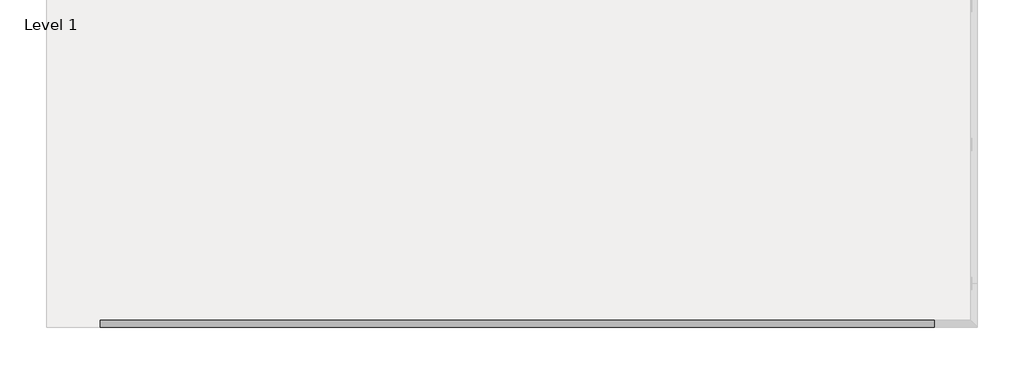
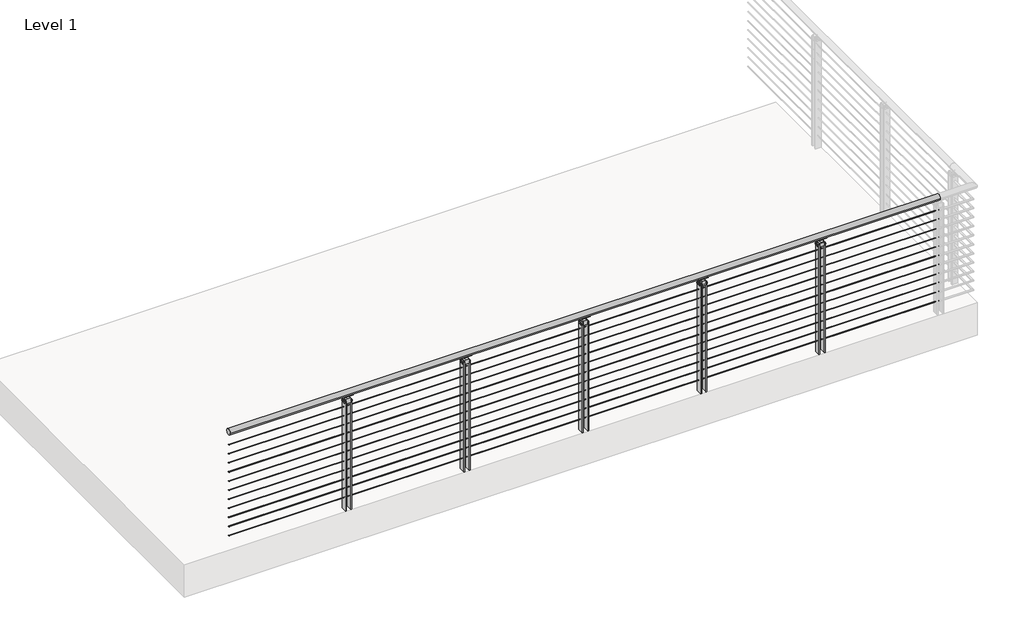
# One storey, part 17 of 36: 1 railing.
"""IFC4 building model written with IfcOpenShell, lengths in millimetres."""

from ifc_helpers import new_model, si_unit, point, frame, frame_2d, origin, origin_with_axes, place, context, project, spatial, polyline, circle_curve, trimmed, segment, composite_curve, outline, extrude, element, save
from ifc_brep_helpers import plane_surface, cylinder_surface, revolved_surface, advanced_brep

model = new_model("IFC4")

# Units and contexts
model_context = context("Model", 3, world=origin())
ifc_project = project(units=[si_unit("LENGTHUNIT", "METRE", prefix="MILLI")], contexts=[model_context])

# Site, building, storey
site = spatial("IfcSite", under=ifc_project)
building = spatial("IfcBuilding", under=site)
storey = spatial("IfcBuildingStorey", under=building, Name="Level 1", Elevation=0.0)

# Railing
placement = place(None, origin())
element("IfcRailing", 1, ObjectType="VIVA-BLADE-Cable-Weld Mount-Straight", at=placement, inside=storey, context=model_context, shape_type="SolidModel", body=[
    extrude(outline(composite_curve([segment(trimmed(circle_curve(frame_2d((-57159.0334719, 1054.1)), 25.4), [point((-57184.4334719, 1054.1))], [point((-57133.6334719, 1054.1))], False, "CARTESIAN"), True, "CONTINUOUS"), segment(trimmed(circle_curve(frame_2d((-57159.0334719, 1054.1)), 25.4), [point((-57133.6334719, 1054.1))], [point((-57184.4334719, 1054.1))], False, "CARTESIAN"), True, "CONTINUOUS")], self_intersect=False)), frame((38933.2855247, 0.0, 0.0), z_axis=(1.0, 0.0, 0.0), x_axis=(0.0, 1.0, 0.0)), (0.0, 0.0, 1.0), 6096.0),
    extrude(outline(composite_curve([segment(trimmed(circle_curve(frame_2d((-57159.0334719, 937.4124)), 2.3876), [point((-57156.6458719, 937.4124))], [point((-57161.4210719, 937.4124))], False, "CARTESIAN"), True, "CONTINUOUS"), segment(trimmed(circle_curve(frame_2d((-57159.0334719, 937.4124)), 2.3876), [point((-57161.4210719, 937.4124))], [point((-57156.6458719, 937.4124))], False, "CARTESIAN"), True, "CONTINUOUS")], self_intersect=False)), frame((38933.2855247, 0.0, 0.0), z_axis=(1.0, 0.0, 0.0), x_axis=(0.0, 1.0, 0.0)), (0.0, 0.0, 1.0), 6096.0),
    extrude(outline(composite_curve([segment(trimmed(circle_curve(frame_2d((-57159.0334719, 854.8624)), 2.3876), [point((-57156.6458719, 854.8624))], [point((-57161.4210719, 854.8624))], False, "CARTESIAN"), True, "CONTINUOUS"), segment(trimmed(circle_curve(frame_2d((-57159.0334719, 854.8624)), 2.3876), [point((-57161.4210719, 854.8624))], [point((-57156.6458719, 854.8624))], False, "CARTESIAN"), True, "CONTINUOUS")], self_intersect=False)), frame((38933.2855247, 0.0, 0.0), z_axis=(1.0, 0.0, 0.0), x_axis=(0.0, 1.0, 0.0)), (0.0, 0.0, 1.0), 6096.0),
    extrude(outline(composite_curve([segment(trimmed(circle_curve(frame_2d((-57159.0334719, 772.3124)), 2.3876), [point((-57156.6458719, 772.3124))], [point((-57161.4210719, 772.3124))], False, "CARTESIAN"), True, "CONTINUOUS"), segment(trimmed(circle_curve(frame_2d((-57159.0334719, 772.3124)), 2.3876), [point((-57161.4210719, 772.3124))], [point((-57156.6458719, 772.3124))], False, "CARTESIAN"), True, "CONTINUOUS")], self_intersect=False)), frame((38933.2855247, 0.0, 0.0), z_axis=(1.0, 0.0, 0.0), x_axis=(0.0, 1.0, 0.0)), (0.0, 0.0, 1.0), 6096.0),
    extrude(outline(composite_curve([segment(trimmed(circle_curve(frame_2d((-57159.0334719, 689.7624)), 2.3876), [point((-57156.6458719, 689.7624))], [point((-57161.4210719, 689.7624))], False, "CARTESIAN"), True, "CONTINUOUS"), segment(trimmed(circle_curve(frame_2d((-57159.0334719, 689.7624)), 2.3876), [point((-57161.4210719, 689.7624))], [point((-57156.6458719, 689.7624))], False, "CARTESIAN"), True, "CONTINUOUS")], self_intersect=False)), frame((38933.2855247, 0.0, 0.0), z_axis=(1.0, 0.0, 0.0), x_axis=(0.0, 1.0, 0.0)), (0.0, 0.0, 1.0), 6096.0),
    extrude(outline(composite_curve([segment(trimmed(circle_curve(frame_2d((-57159.0334719, 607.2124)), 2.3876), [point((-57156.6458719, 607.2124))], [point((-57161.4210719, 607.2124))], False, "CARTESIAN"), True, "CONTINUOUS"), segment(trimmed(circle_curve(frame_2d((-57159.0334719, 607.2124)), 2.3876), [point((-57161.4210719, 607.2124))], [point((-57156.6458719, 607.2124))], False, "CARTESIAN"), True, "CONTINUOUS")], self_intersect=False)), frame((38933.2855247, 0.0, 0.0), z_axis=(1.0, 0.0, 0.0), x_axis=(0.0, 1.0, 0.0)), (0.0, 0.0, 1.0), 6096.0),
    extrude(outline(composite_curve([segment(trimmed(circle_curve(frame_2d((-57159.0334719, 524.6624)), 2.3876), [point((-57156.6458719, 524.6624))], [point((-57161.4210719, 524.6624))], False, "CARTESIAN"), True, "CONTINUOUS"), segment(trimmed(circle_curve(frame_2d((-57159.0334719, 524.6624)), 2.3876), [point((-57161.4210719, 524.6624))], [point((-57156.6458719, 524.6624))], False, "CARTESIAN"), True, "CONTINUOUS")], self_intersect=False)), frame((38933.2855247, 0.0, 0.0), z_axis=(1.0, 0.0, 0.0), x_axis=(0.0, 1.0, 0.0)), (0.0, 0.0, 1.0), 6096.0),
    extrude(outline(composite_curve([segment(trimmed(circle_curve(frame_2d((-57159.0334719, 442.1124)), 2.3876), [point((-57156.6458719, 442.1124))], [point((-57161.4210719, 442.1124))], False, "CARTESIAN"), True, "CONTINUOUS"), segment(trimmed(circle_curve(frame_2d((-57159.0334719, 442.1124)), 2.3876), [point((-57161.4210719, 442.1124))], [point((-57156.6458719, 442.1124))], False, "CARTESIAN"), True, "CONTINUOUS")], self_intersect=False)), frame((38933.2855247, 0.0, 0.0), z_axis=(1.0, 0.0, 0.0), x_axis=(0.0, 1.0, 0.0)), (0.0, 0.0, 1.0), 6096.0),
    extrude(outline(composite_curve([segment(trimmed(circle_curve(frame_2d((-57159.0334719, 359.5624)), 2.3876), [point((-57156.6458719, 359.5624))], [point((-57161.4210719, 359.5624))], False, "CARTESIAN"), True, "CONTINUOUS"), segment(trimmed(circle_curve(frame_2d((-57159.0334719, 359.5624)), 2.3876), [point((-57161.4210719, 359.5624))], [point((-57156.6458719, 359.5624))], False, "CARTESIAN"), True, "CONTINUOUS")], self_intersect=False)), frame((38933.2855247, 0.0, 0.0), z_axis=(1.0, 0.0, 0.0), x_axis=(0.0, 1.0, 0.0)), (0.0, 0.0, 1.0), 6096.0),
    extrude(outline(composite_curve([segment(trimmed(circle_curve(frame_2d((-57159.0334719, 277.0124)), 2.3876), [point((-57156.6458719, 277.0124))], [point((-57161.4210719, 277.0124))], False, "CARTESIAN"), True, "CONTINUOUS"), segment(trimmed(circle_curve(frame_2d((-57159.0334719, 277.0124)), 2.3876), [point((-57161.4210719, 277.0124))], [point((-57156.6458719, 277.0124))], False, "CARTESIAN"), True, "CONTINUOUS")], self_intersect=False)), frame((38933.2855247, 0.0, 0.0), z_axis=(1.0, 0.0, 0.0), x_axis=(0.0, 1.0, 0.0)), (0.0, 0.0, 1.0), 6096.0),
    extrude(outline(composite_curve([segment(trimmed(circle_curve(frame_2d((-57159.0334719, 194.4624)), 2.3876), [point((-57156.6458719, 194.4624))], [point((-57161.4210719, 194.4624))], False, "CARTESIAN"), True, "CONTINUOUS"), segment(trimmed(circle_curve(frame_2d((-57159.0334719, 194.4624)), 2.3876), [point((-57161.4210719, 194.4624))], [point((-57156.6458719, 194.4624))], False, "CARTESIAN"), True, "CONTINUOUS")], self_intersect=False)), frame((38933.2855247, 0.0, 0.0), z_axis=(1.0, 0.0, 0.0), x_axis=(0.0, 1.0, 0.0)), (0.0, 0.0, 1.0), 6096.0),
    extrude(outline(composite_curve([segment(trimmed(circle_curve(frame_2d((-57159.0334719, 111.9124)), 2.3876), [point((-57156.6458719, 111.9124))], [point((-57161.4210719, 111.9124))], False, "CARTESIAN"), True, "CONTINUOUS"), segment(trimmed(circle_curve(frame_2d((-57159.0334719, 111.9124)), 2.3876), [point((-57161.4210719, 111.9124))], [point((-57156.6458719, 111.9124))], False, "CARTESIAN"), True, "CONTINUOUS")], self_intersect=False)), frame((38933.2855247, 0.0, 0.0), z_axis=(1.0, 0.0, 0.0), x_axis=(0.0, 1.0, 0.0)), (0.0, 0.0, 1.0), 6096.0),
    advanced_brep(
    [(44058.5229247, -57146.2733482, 1032.0967655), (44058.5229247, -57171.1454127, 1031.9535285), (44058.5229247, -57173.9543431, 1027.1267745), (44058.5229247, -57142.4374508, 1027.707533), (43968.0481247, -57146.2733482, 1032.0967655), (43968.0481247, -57142.4374508, 1027.707533), (43968.0481247, -57174.0681364, 1027.1893964), (43968.0481247, -57171.2323849, 1032.0018447)],
    [
        (0, 1, circle_curve(frame((44058.5229247, -57158.8371511, 1054.2115898), z_axis=(-1.0, 0.0, 0.0), x_axis=(0.0, 1.0, 0.0)), 25.4345159)),
        (1, 2, circle_curve(frame((44058.5229247, -57172.477038, 1029.4993599), z_axis=(1.0, 0.0, 0.0), x_axis=(0.0, 1.0, 0.0)), 2.7949225)),
        (2, 3, circle_curve(frame((44058.5229247, -57158.703688, 1054.9742164), z_axis=(1.0, 0.0, 0.0), x_axis=(0.0, 1.0, 0.0)), 31.75)),
        (3, 0, circle_curve(frame((44058.5229247, -57144.7257905, 1029.5784521), z_axis=(1.0, 0.0, 0.0), x_axis=(0.0, 1.0, 0.0)), 2.9558141)),
        (4, 5, circle_curve(frame((43968.0481247, -57144.7257905, 1029.5784521), z_axis=(-1.0, 0.0, 0.0), x_axis=(0.0, 1.0, 0.0)), 2.9558141)),
        (5, 6, circle_curve(frame((43968.0481247, -57158.703688, 1054.9742164), z_axis=(-1.0, 0.0, 0.0), x_axis=(0.0, 1.0, 0.0)), 31.75)),
        (6, 7, circle_curve(frame((43968.0481247, -57172.477038, 1029.4993599), z_axis=(-1.0, 0.0, 0.0), x_axis=(0.0, 1.0, 0.0)), 2.7949225)),
        (7, 4, circle_curve(frame((43968.0481247, -57158.8371511, 1054.2115898), z_axis=(1.0, 0.0, 0.0), x_axis=(0.0, 1.0, 0.0)), 25.4345159)),
        (0, 4),
        (7, 1),
        (6, 2),
        (5, 3),
    ],
    [
        plane_surface(frame((44058.5229247, -57133.4026353, 1054.2115898), z_axis=(1.0, 0.0, 0.0), x_axis=(0.0, 0.0, -1.0))),
        plane_surface(frame((43968.0481247, -57133.4026353, 1054.2115898), z_axis=(-1.0, 0.0, 0.0), x_axis=(0.0, 0.0, 1.0))),
        revolved_surface(polyline([(43968.0481247, -57133.4026352, 1054.2115898), (44058.5229247, -57133.4026352, 1054.2115898)]), (43968.0481247, -57158.8371511, 1054.2115898), (-1.0, 0.0, 0.0)),
        cylinder_surface(frame((43968.0481247, -57172.477038, 1029.4993599), z_axis=(1.0, 0.0, 0.0), x_axis=(0.0, 1.0, 0.0)), 2.7949225),
        cylinder_surface(frame((43968.0481247, -57158.703688, 1054.9742164), z_axis=(1.0, 0.0, 0.0), x_axis=(0.0, 1.0, 0.0)), 31.75),
        cylinder_surface(frame((43968.0481247, -57144.7257905, 1029.5784521), z_axis=(1.0, 0.0, 0.0), x_axis=(0.0, 1.0, 0.0)), 2.9558141),
    ],
    [
        (0, [[1, 2, 3, 4]]),
        (1, [[5, 6, 7, 8]]),
        (2, [[-1, 9, -8, 10]]),
        (3, [[-2, -10, -7, 11]]),
        (4, [[-3, -11, -6, 12]]),
        (5, [[-4, -12, -5, -9]]),
    ],
),
    advanced_brep(
    [(44025.9855247, -57156.4934719, 1014.4125), (44000.5855247, -57156.4934719, 1014.4125), (43986.2176098, -57156.4934719, 1028.7804149), (44040.3534396, -57156.4934719, 1028.7804149), (44025.9855247, -57161.5734719, 1014.4125), (44040.3534396, -57161.5734719, 1028.7804149), (43986.2176098, -57161.5734719, 1028.7804149), (44000.5855247, -57161.5734719, 1014.4125)],
    [
        (0, 1),
        (1, 2, circle_curve(frame((43986.2176098, -57156.4934719, 1014.4125), z_axis=(0.0, -1.0, 0.0), x_axis=(-1.0, 0.0, 0.0)), 14.3679149)),
        (2, 3),
        (3, 0, circle_curve(frame((44040.3534396, -57156.4934719, 1014.4125), z_axis=(0.0, -1.0, 0.0), x_axis=(-1.0, 0.0, 0.0)), 14.3679149)),
        (4, 5, circle_curve(frame((44040.3534396, -57161.5734719, 1014.4125), z_axis=(0.0, 1.0, 0.0), x_axis=(-1.0, 0.0, 0.0)), 14.3679149)),
        (5, 6),
        (6, 7, circle_curve(frame((43986.2176098, -57161.5734719, 1014.4125), z_axis=(0.0, 1.0, 0.0), x_axis=(-1.0, 0.0, 0.0)), 14.3679149)),
        (7, 4),
        (0, 4),
        (7, 1),
        (6, 2),
        (5, 3),
    ],
    [
        plane_surface(frame((44000.5855247, -57156.4934719, 1014.4125), z_axis=(0.0, 1.0, 0.0), x_axis=(-1.0, 0.0, 0.0))),
        plane_surface(frame((44000.5855247, -57161.5734719, 1014.4125), z_axis=(0.0, -1.0, 0.0), x_axis=(1.0, 0.0, 0.0))),
        plane_surface(frame((44025.9855247, -57156.4934719, 1014.4125), z_axis=(0.0, 0.0, -1.0), x_axis=(0.0, -1.0, 0.0))),
        revolved_surface(polyline([(43971.8496949, -57161.5734719, 1014.4125), (43971.8496949, -57156.4934719, 1014.4125)]), (43986.2176098, -57161.5734719, 1014.4125), (0.0, -1.0, 0.0)),
        plane_surface(frame((43986.2176098, -57156.4934719, 1028.7804149), z_axis=(0.0, 0.0, 1.0), x_axis=(0.0, -1.0, 0.0))),
        revolved_surface(polyline([(44025.9855247, -57161.5734719, 1014.4125), (44025.9855247, -57156.4934719, 1014.4125)]), (44040.3534396, -57161.5734719, 1014.4125), (0.0, -1.0, 0.0)),
    ],
    [
        (0, [[1, 2, 3, 4]]),
        (1, [[5, 6, 7, 8]]),
        (2, [[-1, 9, -8, 10]]),
        (3, [[-2, -10, -7, 11]]),
        (4, [[-3, -11, -6, 12]]),
        (5, [[-4, -12, -5, -9]]),
    ],
),
    extrude(outline(polyline([(43986.210689, -57133.6336752), (43994.2355247, -57133.6336752), (43994.2355247, -57184.4359998), (43986.210689, -57184.4359998), (43986.210689, -57133.6336752)])), origin_with_axes(), (0.0, 0.0, 1.0), 996.95),
    extrude(outline(composite_curve([segment(trimmed(circle_curve(frame_2d((-57171.7359488, 986.0416929)), 8.89), [point((-57180.6259488, 986.0416929))], [point((-57162.8459488, 986.0416929))], False, "CARTESIAN"), True, "CONTINUOUS"), segment(trimmed(circle_curve(frame_2d((-57171.7359488, 986.0416929)), 8.89), [point((-57162.8459488, 986.0416929))], [point((-57180.6259488, 986.0416929))], False, "CARTESIAN"), True, "CONTINUOUS")], self_intersect=False)), frame((43981.5355247, 0.0, 0.0), z_axis=(1.0, 0.0, 0.0), x_axis=(0.0, 1.0, 0.0)), (0.0, 0.0, 1.0), 63.4880631),
    extrude(outline(composite_curve([segment(trimmed(circle_curve(frame_2d((-57146.3360508, 986.0416929)), 8.89), [point((-57155.2260508, 986.0416929))], [point((-57137.4460508, 986.0416929))], False, "CARTESIAN"), True, "CONTINUOUS"), segment(trimmed(circle_curve(frame_2d((-57146.3360508, 986.0416929)), 8.89), [point((-57137.4460508, 986.0416929))], [point((-57155.2260508, 986.0416929))], False, "CARTESIAN"), True, "CONTINUOUS")], self_intersect=False)), frame((43981.5355247, 0.0, 0.0), z_axis=(1.0, 0.0, 0.0), x_axis=(0.0, 1.0, 0.0)), (0.0, 0.0, 1.0), 63.4880631),
    extrude(outline(polyline([(974.7123, 43994.2355247), (974.7123, 44032.3355247), (1008.0625, 44032.3355247), (1014.4125, 44025.9855247), (1014.4125, 44000.5855247), (1008.0625, 43994.2355247), (974.7123, 43994.2355247)])), frame((0.0, -57184.4359998, 0.0), z_axis=(0.0, 1.0, 0.0), x_axis=(0.0, 0.0, 1.0)), (0.0, 0.0, 1.0), 50.8025279),
    extrude(outline(polyline([(44032.3354867, -57133.6336752), (44040.3364867, -57133.6336752), (44040.3364867, -57184.4359998), (44032.3354867, -57184.4359998), (44032.3354867, -57133.6336752)])), origin_with_axes(), (0.0, 0.0, 1.0), 996.95),
    advanced_brep(
    [(43042.5229247, -57146.2733482, 1032.0967655), (43042.5229247, -57171.1454127, 1031.9535285), (43042.5229247, -57173.9543431, 1027.1267745), (43042.5229247, -57142.4374508, 1027.707533), (42952.0481247, -57146.2733482, 1032.0967655), (42952.0481247, -57142.4374508, 1027.707533), (42952.0481247, -57174.0681364, 1027.1893964), (42952.0481247, -57171.2323849, 1032.0018447)],
    [
        (0, 1, circle_curve(frame((43042.5229247, -57158.8371511, 1054.2115898), z_axis=(-1.0, 0.0, 0.0), x_axis=(0.0, 1.0, 0.0)), 25.4345159)),
        (1, 2, circle_curve(frame((43042.5229247, -57172.477038, 1029.4993599), z_axis=(1.0, 0.0, 0.0), x_axis=(0.0, 1.0, 0.0)), 2.7949225)),
        (2, 3, circle_curve(frame((43042.5229247, -57158.703688, 1054.9742164), z_axis=(1.0, 0.0, 0.0), x_axis=(0.0, 1.0, 0.0)), 31.75)),
        (3, 0, circle_curve(frame((43042.5229247, -57144.7257905, 1029.5784521), z_axis=(1.0, 0.0, 0.0), x_axis=(0.0, 1.0, 0.0)), 2.9558141)),
        (4, 5, circle_curve(frame((42952.0481247, -57144.7257905, 1029.5784521), z_axis=(-1.0, 0.0, 0.0), x_axis=(0.0, 1.0, 0.0)), 2.9558141)),
        (5, 6, circle_curve(frame((42952.0481247, -57158.703688, 1054.9742164), z_axis=(-1.0, 0.0, 0.0), x_axis=(0.0, 1.0, 0.0)), 31.75)),
        (6, 7, circle_curve(frame((42952.0481247, -57172.477038, 1029.4993599), z_axis=(-1.0, 0.0, 0.0), x_axis=(0.0, 1.0, 0.0)), 2.7949225)),
        (7, 4, circle_curve(frame((42952.0481247, -57158.8371511, 1054.2115898), z_axis=(1.0, 0.0, 0.0), x_axis=(0.0, 1.0, 0.0)), 25.4345159)),
        (0, 4),
        (7, 1),
        (6, 2),
        (5, 3),
    ],
    [
        plane_surface(frame((43042.5229247, -57133.4026353, 1054.2115898), z_axis=(1.0, 0.0, 0.0), x_axis=(0.0, 0.0, -1.0))),
        plane_surface(frame((42952.0481247, -57133.4026353, 1054.2115898), z_axis=(-1.0, 0.0, 0.0), x_axis=(0.0, 0.0, 1.0))),
        revolved_surface(polyline([(42952.0481247, -57133.4026352, 1054.2115898), (43042.5229247, -57133.4026352, 1054.2115898)]), (42952.0481247, -57158.8371511, 1054.2115898), (-1.0, 0.0, 0.0)),
        cylinder_surface(frame((42952.0481247, -57172.477038, 1029.4993599), z_axis=(1.0, 0.0, 0.0), x_axis=(0.0, 1.0, 0.0)), 2.7949225),
        cylinder_surface(frame((42952.0481247, -57158.703688, 1054.9742164), z_axis=(1.0, 0.0, 0.0), x_axis=(0.0, 1.0, 0.0)), 31.75),
        cylinder_surface(frame((42952.0481247, -57144.7257905, 1029.5784521), z_axis=(1.0, 0.0, 0.0), x_axis=(0.0, 1.0, 0.0)), 2.9558141),
    ],
    [
        (0, [[1, 2, 3, 4]]),
        (1, [[5, 6, 7, 8]]),
        (2, [[-1, 9, -8, 10]]),
        (3, [[-2, -10, -7, 11]]),
        (4, [[-3, -11, -6, 12]]),
        (5, [[-4, -12, -5, -9]]),
    ],
),
    advanced_brep(
    [(43009.9855247, -57156.4934719, 1014.4125), (42984.5855247, -57156.4934719, 1014.4125), (42970.2176098, -57156.4934719, 1028.7804149), (43024.3534396, -57156.4934719, 1028.7804149), (43009.9855247, -57161.5734719, 1014.4125), (43024.3534396, -57161.5734719, 1028.7804149), (42970.2176098, -57161.5734719, 1028.7804149), (42984.5855247, -57161.5734719, 1014.4125)],
    [
        (0, 1),
        (1, 2, circle_curve(frame((42970.2176098, -57156.4934719, 1014.4125), z_axis=(0.0, -1.0, 0.0), x_axis=(-1.0, 0.0, 0.0)), 14.3679149)),
        (2, 3),
        (3, 0, circle_curve(frame((43024.3534396, -57156.4934719, 1014.4125), z_axis=(0.0, -1.0, 0.0), x_axis=(-1.0, 0.0, 0.0)), 14.3679149)),
        (4, 5, circle_curve(frame((43024.3534396, -57161.5734719, 1014.4125), z_axis=(0.0, 1.0, 0.0), x_axis=(-1.0, 0.0, 0.0)), 14.3679149)),
        (5, 6),
        (6, 7, circle_curve(frame((42970.2176098, -57161.5734719, 1014.4125), z_axis=(0.0, 1.0, 0.0), x_axis=(-1.0, 0.0, 0.0)), 14.3679149)),
        (7, 4),
        (0, 4),
        (7, 1),
        (6, 2),
        (5, 3),
    ],
    [
        plane_surface(frame((42984.5855247, -57156.4934719, 1014.4125), z_axis=(0.0, 1.0, 0.0), x_axis=(-1.0, 0.0, 0.0))),
        plane_surface(frame((42984.5855247, -57161.5734719, 1014.4125), z_axis=(0.0, -1.0, 0.0), x_axis=(1.0, 0.0, 0.0))),
        plane_surface(frame((43009.9855247, -57156.4934719, 1014.4125), z_axis=(0.0, 0.0, -1.0), x_axis=(0.0, -1.0, 0.0))),
        revolved_surface(polyline([(42955.8496949, -57161.5734719, 1014.4125), (42955.8496949, -57156.4934719, 1014.4125)]), (42970.2176098, -57161.5734719, 1014.4125), (0.0, -1.0, 0.0)),
        plane_surface(frame((42970.2176098, -57156.4934719, 1028.7804149), z_axis=(0.0, 0.0, 1.0), x_axis=(0.0, -1.0, 0.0))),
        revolved_surface(polyline([(43009.9855247, -57161.5734719, 1014.4125), (43009.9855247, -57156.4934719, 1014.4125)]), (43024.3534396, -57161.5734719, 1014.4125), (0.0, -1.0, 0.0)),
    ],
    [
        (0, [[1, 2, 3, 4]]),
        (1, [[5, 6, 7, 8]]),
        (2, [[-1, 9, -8, 10]]),
        (3, [[-2, -10, -7, 11]]),
        (4, [[-3, -11, -6, 12]]),
        (5, [[-4, -12, -5, -9]]),
    ],
),
    extrude(outline(polyline([(42970.210689, -57133.6336752), (42978.2355247, -57133.6336752), (42978.2355247, -57184.4359998), (42970.210689, -57184.4359998), (42970.210689, -57133.6336752)])), origin_with_axes(), (0.0, 0.0, 1.0), 996.95),
    extrude(outline(composite_curve([segment(trimmed(circle_curve(frame_2d((-57171.7359488, 986.0416929)), 8.89), [point((-57180.6259488, 986.0416929))], [point((-57162.8459488, 986.0416929))], False, "CARTESIAN"), True, "CONTINUOUS"), segment(trimmed(circle_curve(frame_2d((-57171.7359488, 986.0416929)), 8.89), [point((-57162.8459488, 986.0416929))], [point((-57180.6259488, 986.0416929))], False, "CARTESIAN"), True, "CONTINUOUS")], self_intersect=False)), frame((42965.5355247, 0.0, 0.0), z_axis=(1.0, 0.0, 0.0), x_axis=(0.0, 1.0, 0.0)), (0.0, 0.0, 1.0), 63.4880631),
    extrude(outline(composite_curve([segment(trimmed(circle_curve(frame_2d((-57146.3360508, 986.0416929)), 8.89), [point((-57155.2260508, 986.0416929))], [point((-57137.4460508, 986.0416929))], False, "CARTESIAN"), True, "CONTINUOUS"), segment(trimmed(circle_curve(frame_2d((-57146.3360508, 986.0416929)), 8.89), [point((-57137.4460508, 986.0416929))], [point((-57155.2260508, 986.0416929))], False, "CARTESIAN"), True, "CONTINUOUS")], self_intersect=False)), frame((42965.5355247, 0.0, 0.0), z_axis=(1.0, 0.0, 0.0), x_axis=(0.0, 1.0, 0.0)), (0.0, 0.0, 1.0), 63.4880631),
    extrude(outline(polyline([(974.7123, 42978.2355247), (974.7123, 43016.3355247), (1008.0625, 43016.3355247), (1014.4125, 43009.9855247), (1014.4125, 42984.5855247), (1008.0625, 42978.2355247), (974.7123, 42978.2355247)])), frame((0.0, -57184.4359998, 0.0), z_axis=(0.0, 1.0, 0.0), x_axis=(0.0, 0.0, 1.0)), (0.0, 0.0, 1.0), 50.8025279),
    extrude(outline(polyline([(43016.3354867, -57133.6336752), (43024.3364867, -57133.6336752), (43024.3364867, -57184.4359998), (43016.3354867, -57184.4359998), (43016.3354867, -57133.6336752)])), origin_with_axes(), (0.0, 0.0, 1.0), 996.95),
    advanced_brep(
    [(42026.5229247, -57146.2733482, 1032.0967655), (42026.5229247, -57171.1454127, 1031.9535285), (42026.5229247, -57173.9543431, 1027.1267745), (42026.5229247, -57142.4374508, 1027.707533), (41936.0481247, -57146.2733482, 1032.0967655), (41936.0481247, -57142.4374508, 1027.707533), (41936.0481247, -57174.0681364, 1027.1893964), (41936.0481247, -57171.2323849, 1032.0018447)],
    [
        (0, 1, circle_curve(frame((42026.5229247, -57158.8371511, 1054.2115898), z_axis=(-1.0, 0.0, 0.0), x_axis=(0.0, 1.0, 0.0)), 25.4345159)),
        (1, 2, circle_curve(frame((42026.5229247, -57172.477038, 1029.4993599), z_axis=(1.0, 0.0, 0.0), x_axis=(0.0, 1.0, 0.0)), 2.7949225)),
        (2, 3, circle_curve(frame((42026.5229247, -57158.703688, 1054.9742164), z_axis=(1.0, 0.0, 0.0), x_axis=(0.0, 1.0, 0.0)), 31.75)),
        (3, 0, circle_curve(frame((42026.5229247, -57144.7257905, 1029.5784521), z_axis=(1.0, 0.0, 0.0), x_axis=(0.0, 1.0, 0.0)), 2.9558141)),
        (4, 5, circle_curve(frame((41936.0481247, -57144.7257905, 1029.5784521), z_axis=(-1.0, 0.0, 0.0), x_axis=(0.0, 1.0, 0.0)), 2.9558141)),
        (5, 6, circle_curve(frame((41936.0481247, -57158.703688, 1054.9742164), z_axis=(-1.0, 0.0, 0.0), x_axis=(0.0, 1.0, 0.0)), 31.75)),
        (6, 7, circle_curve(frame((41936.0481247, -57172.477038, 1029.4993599), z_axis=(-1.0, 0.0, 0.0), x_axis=(0.0, 1.0, 0.0)), 2.7949225)),
        (7, 4, circle_curve(frame((41936.0481247, -57158.8371511, 1054.2115898), z_axis=(1.0, 0.0, 0.0), x_axis=(0.0, 1.0, 0.0)), 25.4345159)),
        (0, 4),
        (7, 1),
        (6, 2),
        (5, 3),
    ],
    [
        plane_surface(frame((42026.5229247, -57133.4026353, 1054.2115898), z_axis=(1.0, 0.0, 0.0), x_axis=(0.0, 0.0, -1.0))),
        plane_surface(frame((41936.0481247, -57133.4026353, 1054.2115898), z_axis=(-1.0, 0.0, 0.0), x_axis=(0.0, 0.0, 1.0))),
        revolved_surface(polyline([(41936.0481247, -57133.4026352, 1054.2115898), (42026.5229247, -57133.4026352, 1054.2115898)]), (41936.0481247, -57158.8371511, 1054.2115898), (-1.0, 0.0, 0.0)),
        cylinder_surface(frame((41936.0481247, -57172.477038, 1029.4993599), z_axis=(1.0, 0.0, 0.0), x_axis=(0.0, 1.0, 0.0)), 2.7949225),
        cylinder_surface(frame((41936.0481247, -57158.703688, 1054.9742164), z_axis=(1.0, 0.0, 0.0), x_axis=(0.0, 1.0, 0.0)), 31.75),
        cylinder_surface(frame((41936.0481247, -57144.7257905, 1029.5784521), z_axis=(1.0, 0.0, 0.0), x_axis=(0.0, 1.0, 0.0)), 2.9558141),
    ],
    [
        (0, [[1, 2, 3, 4]]),
        (1, [[5, 6, 7, 8]]),
        (2, [[-1, 9, -8, 10]]),
        (3, [[-2, -10, -7, 11]]),
        (4, [[-3, -11, -6, 12]]),
        (5, [[-4, -12, -5, -9]]),
    ],
),
    advanced_brep(
    [(41993.9855247, -57156.4934719, 1014.4125), (41968.5855247, -57156.4934719, 1014.4125), (41954.2176098, -57156.4934719, 1028.7804149), (42008.3534396, -57156.4934719, 1028.7804149), (41993.9855247, -57161.5734719, 1014.4125), (42008.3534396, -57161.5734719, 1028.7804149), (41954.2176098, -57161.5734719, 1028.7804149), (41968.5855247, -57161.5734719, 1014.4125)],
    [
        (0, 1),
        (1, 2, circle_curve(frame((41954.2176098, -57156.4934719, 1014.4125), z_axis=(0.0, -1.0, 0.0), x_axis=(-1.0, 0.0, 0.0)), 14.3679149)),
        (2, 3),
        (3, 0, circle_curve(frame((42008.3534396, -57156.4934719, 1014.4125), z_axis=(0.0, -1.0, 0.0), x_axis=(-1.0, 0.0, 0.0)), 14.3679149)),
        (4, 5, circle_curve(frame((42008.3534396, -57161.5734719, 1014.4125), z_axis=(0.0, 1.0, 0.0), x_axis=(-1.0, 0.0, 0.0)), 14.3679149)),
        (5, 6),
        (6, 7, circle_curve(frame((41954.2176098, -57161.5734719, 1014.4125), z_axis=(0.0, 1.0, 0.0), x_axis=(-1.0, 0.0, 0.0)), 14.3679149)),
        (7, 4),
        (0, 4),
        (7, 1),
        (6, 2),
        (5, 3),
    ],
    [
        plane_surface(frame((41968.5855247, -57156.4934719, 1014.4125), z_axis=(0.0, 1.0, 0.0), x_axis=(-1.0, 0.0, 0.0))),
        plane_surface(frame((41968.5855247, -57161.5734719, 1014.4125), z_axis=(0.0, -1.0, 0.0), x_axis=(1.0, 0.0, 0.0))),
        plane_surface(frame((41993.9855247, -57156.4934719, 1014.4125), z_axis=(0.0, 0.0, -1.0), x_axis=(0.0, -1.0, 0.0))),
        revolved_surface(polyline([(41939.8496949, -57161.5734719, 1014.4125), (41939.8496949, -57156.4934719, 1014.4125)]), (41954.2176098, -57161.5734719, 1014.4125), (0.0, -1.0, 0.0)),
        plane_surface(frame((41954.2176098, -57156.4934719, 1028.7804149), z_axis=(0.0, 0.0, 1.0), x_axis=(0.0, -1.0, 0.0))),
        revolved_surface(polyline([(41993.9855247, -57161.5734719, 1014.4125), (41993.9855247, -57156.4934719, 1014.4125)]), (42008.3534396, -57161.5734719, 1014.4125), (0.0, -1.0, 0.0)),
    ],
    [
        (0, [[1, 2, 3, 4]]),
        (1, [[5, 6, 7, 8]]),
        (2, [[-1, 9, -8, 10]]),
        (3, [[-2, -10, -7, 11]]),
        (4, [[-3, -11, -6, 12]]),
        (5, [[-4, -12, -5, -9]]),
    ],
),
    extrude(outline(polyline([(41954.210689, -57133.6336752), (41962.2355247, -57133.6336752), (41962.2355247, -57184.4359998), (41954.210689, -57184.4359998), (41954.210689, -57133.6336752)])), origin_with_axes(), (0.0, 0.0, 1.0), 996.95),
    extrude(outline(composite_curve([segment(trimmed(circle_curve(frame_2d((-57171.7359488, 986.0416929)), 8.89), [point((-57180.6259488, 986.0416929))], [point((-57162.8459488, 986.0416929))], False, "CARTESIAN"), True, "CONTINUOUS"), segment(trimmed(circle_curve(frame_2d((-57171.7359488, 986.0416929)), 8.89), [point((-57162.8459488, 986.0416929))], [point((-57180.6259488, 986.0416929))], False, "CARTESIAN"), True, "CONTINUOUS")], self_intersect=False)), frame((41949.5355247, 0.0, 0.0), z_axis=(1.0, 0.0, 0.0), x_axis=(0.0, 1.0, 0.0)), (0.0, 0.0, 1.0), 63.4880631),
    extrude(outline(composite_curve([segment(trimmed(circle_curve(frame_2d((-57146.3360508, 986.0416929)), 8.89), [point((-57155.2260508, 986.0416929))], [point((-57137.4460508, 986.0416929))], False, "CARTESIAN"), True, "CONTINUOUS"), segment(trimmed(circle_curve(frame_2d((-57146.3360508, 986.0416929)), 8.89), [point((-57137.4460508, 986.0416929))], [point((-57155.2260508, 986.0416929))], False, "CARTESIAN"), True, "CONTINUOUS")], self_intersect=False)), frame((41949.5355247, 0.0, 0.0), z_axis=(1.0, 0.0, 0.0), x_axis=(0.0, 1.0, 0.0)), (0.0, 0.0, 1.0), 63.4880631),
    extrude(outline(polyline([(974.7123, 41962.2355247), (974.7123, 42000.3355247), (1008.0625, 42000.3355247), (1014.4125, 41993.9855247), (1014.4125, 41968.5855247), (1008.0625, 41962.2355247), (974.7123, 41962.2355247)])), frame((0.0, -57184.4359998, 0.0), z_axis=(0.0, 1.0, 0.0), x_axis=(0.0, 0.0, 1.0)), (0.0, 0.0, 1.0), 50.8025279),
    extrude(outline(polyline([(42000.3354867, -57133.6336752), (42008.3364867, -57133.6336752), (42008.3364867, -57184.4359998), (42000.3354867, -57184.4359998), (42000.3354867, -57133.6336752)])), origin_with_axes(), (0.0, 0.0, 1.0), 996.95),
    advanced_brep(
    [(41010.5229247, -57146.2733482, 1032.0967655), (41010.5229247, -57171.1454127, 1031.9535285), (41010.5229247, -57173.9543431, 1027.1267745), (41010.5229247, -57142.4374508, 1027.707533), (40920.0481247, -57146.2733482, 1032.0967655), (40920.0481247, -57142.4374508, 1027.707533), (40920.0481247, -57174.0681364, 1027.1893964), (40920.0481247, -57171.2323849, 1032.0018447)],
    [
        (0, 1, circle_curve(frame((41010.5229247, -57158.8371511, 1054.2115898), z_axis=(-1.0, 0.0, 0.0), x_axis=(0.0, 1.0, 0.0)), 25.4345159)),
        (1, 2, circle_curve(frame((41010.5229247, -57172.477038, 1029.4993599), z_axis=(1.0, 0.0, 0.0), x_axis=(0.0, 1.0, 0.0)), 2.7949225)),
        (2, 3, circle_curve(frame((41010.5229247, -57158.703688, 1054.9742164), z_axis=(1.0, 0.0, 0.0), x_axis=(0.0, 1.0, 0.0)), 31.75)),
        (3, 0, circle_curve(frame((41010.5229247, -57144.7257905, 1029.5784521), z_axis=(1.0, 0.0, 0.0), x_axis=(0.0, 1.0, 0.0)), 2.9558141)),
        (4, 5, circle_curve(frame((40920.0481247, -57144.7257905, 1029.5784521), z_axis=(-1.0, 0.0, 0.0), x_axis=(0.0, 1.0, 0.0)), 2.9558141)),
        (5, 6, circle_curve(frame((40920.0481247, -57158.703688, 1054.9742164), z_axis=(-1.0, 0.0, 0.0), x_axis=(0.0, 1.0, 0.0)), 31.75)),
        (6, 7, circle_curve(frame((40920.0481247, -57172.477038, 1029.4993599), z_axis=(-1.0, 0.0, 0.0), x_axis=(0.0, 1.0, 0.0)), 2.7949225)),
        (7, 4, circle_curve(frame((40920.0481247, -57158.8371511, 1054.2115898), z_axis=(1.0, 0.0, 0.0), x_axis=(0.0, 1.0, 0.0)), 25.4345159)),
        (0, 4),
        (7, 1),
        (6, 2),
        (5, 3),
    ],
    [
        plane_surface(frame((41010.5229247, -57133.4026353, 1054.2115898), z_axis=(1.0, 0.0, 0.0), x_axis=(0.0, 0.0, -1.0))),
        plane_surface(frame((40920.0481247, -57133.4026353, 1054.2115898), z_axis=(-1.0, 0.0, 0.0), x_axis=(0.0, 0.0, 1.0))),
        revolved_surface(polyline([(40920.0481247, -57133.4026352, 1054.2115898), (41010.5229247, -57133.4026352, 1054.2115898)]), (40920.0481247, -57158.8371511, 1054.2115898), (-1.0, 0.0, 0.0)),
        cylinder_surface(frame((40920.0481247, -57172.477038, 1029.4993599), z_axis=(1.0, 0.0, 0.0), x_axis=(0.0, 1.0, 0.0)), 2.7949225),
        cylinder_surface(frame((40920.0481247, -57158.703688, 1054.9742164), z_axis=(1.0, 0.0, 0.0), x_axis=(0.0, 1.0, 0.0)), 31.75),
        cylinder_surface(frame((40920.0481247, -57144.7257905, 1029.5784521), z_axis=(1.0, 0.0, 0.0), x_axis=(0.0, 1.0, 0.0)), 2.9558141),
    ],
    [
        (0, [[1, 2, 3, 4]]),
        (1, [[5, 6, 7, 8]]),
        (2, [[-1, 9, -8, 10]]),
        (3, [[-2, -10, -7, 11]]),
        (4, [[-3, -11, -6, 12]]),
        (5, [[-4, -12, -5, -9]]),
    ],
),
    advanced_brep(
    [(40977.9855247, -57156.4934719, 1014.4125), (40952.5855247, -57156.4934719, 1014.4125), (40938.2176098, -57156.4934719, 1028.7804149), (40992.3534396, -57156.4934719, 1028.7804149), (40977.9855247, -57161.5734719, 1014.4125), (40992.3534396, -57161.5734719, 1028.7804149), (40938.2176098, -57161.5734719, 1028.7804149), (40952.5855247, -57161.5734719, 1014.4125)],
    [
        (0, 1),
        (1, 2, circle_curve(frame((40938.2176098, -57156.4934719, 1014.4125), z_axis=(0.0, -1.0, 0.0), x_axis=(-1.0, 0.0, 0.0)), 14.3679149)),
        (2, 3),
        (3, 0, circle_curve(frame((40992.3534396, -57156.4934719, 1014.4125), z_axis=(0.0, -1.0, 0.0), x_axis=(-1.0, 0.0, 0.0)), 14.3679149)),
        (4, 5, circle_curve(frame((40992.3534396, -57161.5734719, 1014.4125), z_axis=(0.0, 1.0, 0.0), x_axis=(-1.0, 0.0, 0.0)), 14.3679149)),
        (5, 6),
        (6, 7, circle_curve(frame((40938.2176098, -57161.5734719, 1014.4125), z_axis=(0.0, 1.0, 0.0), x_axis=(-1.0, 0.0, 0.0)), 14.3679149)),
        (7, 4),
        (0, 4),
        (7, 1),
        (6, 2),
        (5, 3),
    ],
    [
        plane_surface(frame((40952.5855247, -57156.4934719, 1014.4125), z_axis=(0.0, 1.0, 0.0), x_axis=(-1.0, 0.0, 0.0))),
        plane_surface(frame((40952.5855247, -57161.5734719, 1014.4125), z_axis=(0.0, -1.0, 0.0), x_axis=(1.0, 0.0, 0.0))),
        plane_surface(frame((40977.9855247, -57156.4934719, 1014.4125), z_axis=(0.0, 0.0, -1.0), x_axis=(0.0, -1.0, 0.0))),
        revolved_surface(polyline([(40923.8496949, -57161.5734719, 1014.4125), (40923.8496949, -57156.4934719, 1014.4125)]), (40938.2176098, -57161.5734719, 1014.4125), (0.0, -1.0, 0.0)),
        plane_surface(frame((40938.2176098, -57156.4934719, 1028.7804149), z_axis=(0.0, 0.0, 1.0), x_axis=(0.0, -1.0, 0.0))),
        revolved_surface(polyline([(40977.9855247, -57161.5734719, 1014.4125), (40977.9855247, -57156.4934719, 1014.4125)]), (40992.3534396, -57161.5734719, 1014.4125), (0.0, -1.0, 0.0)),
    ],
    [
        (0, [[1, 2, 3, 4]]),
        (1, [[5, 6, 7, 8]]),
        (2, [[-1, 9, -8, 10]]),
        (3, [[-2, -10, -7, 11]]),
        (4, [[-3, -11, -6, 12]]),
        (5, [[-4, -12, -5, -9]]),
    ],
),
    extrude(outline(polyline([(40938.210689, -57133.6336752), (40946.2355247, -57133.6336752), (40946.2355247, -57184.4359998), (40938.210689, -57184.4359998), (40938.210689, -57133.6336752)])), origin_with_axes(), (0.0, 0.0, 1.0), 996.95),
    extrude(outline(composite_curve([segment(trimmed(circle_curve(frame_2d((-57171.7359488, 986.0416929)), 8.89), [point((-57180.6259488, 986.0416929))], [point((-57162.8459488, 986.0416929))], False, "CARTESIAN"), True, "CONTINUOUS"), segment(trimmed(circle_curve(frame_2d((-57171.7359488, 986.0416929)), 8.89), [point((-57162.8459488, 986.0416929))], [point((-57180.6259488, 986.0416929))], False, "CARTESIAN"), True, "CONTINUOUS")], self_intersect=False)), frame((40933.5355247, 0.0, 0.0), z_axis=(1.0, 0.0, 0.0), x_axis=(0.0, 1.0, 0.0)), (0.0, 0.0, 1.0), 63.4880631),
    extrude(outline(composite_curve([segment(trimmed(circle_curve(frame_2d((-57146.3360508, 986.0416929)), 8.89), [point((-57155.2260508, 986.0416929))], [point((-57137.4460508, 986.0416929))], False, "CARTESIAN"), True, "CONTINUOUS"), segment(trimmed(circle_curve(frame_2d((-57146.3360508, 986.0416929)), 8.89), [point((-57137.4460508, 986.0416929))], [point((-57155.2260508, 986.0416929))], False, "CARTESIAN"), True, "CONTINUOUS")], self_intersect=False)), frame((40933.5355247, 0.0, 0.0), z_axis=(1.0, 0.0, 0.0), x_axis=(0.0, 1.0, 0.0)), (0.0, 0.0, 1.0), 63.4880631),
    extrude(outline(polyline([(974.7123, 40946.2355247), (974.7123, 40984.3355247), (1008.0625, 40984.3355247), (1014.4125, 40977.9855247), (1014.4125, 40952.5855247), (1008.0625, 40946.2355247), (974.7123, 40946.2355247)])), frame((0.0, -57184.4359998, 0.0), z_axis=(0.0, 1.0, 0.0), x_axis=(0.0, 0.0, 1.0)), (0.0, 0.0, 1.0), 50.8025279),
    extrude(outline(polyline([(40984.3354867, -57133.6336752), (40992.3364867, -57133.6336752), (40992.3364867, -57184.4359998), (40984.3354867, -57184.4359998), (40984.3354867, -57133.6336752)])), origin_with_axes(), (0.0, 0.0, 1.0), 996.95),
    advanced_brep(
    [(39994.5229247, -57146.2733482, 1032.0967655), (39994.5229247, -57171.1454127, 1031.9535285), (39994.5229247, -57173.9543431, 1027.1267745), (39994.5229247, -57142.4374508, 1027.707533), (39904.0481247, -57146.2733482, 1032.0967655), (39904.0481247, -57142.4374508, 1027.707533), (39904.0481247, -57174.0681364, 1027.1893964), (39904.0481247, -57171.2323849, 1032.0018447)],
    [
        (0, 1, circle_curve(frame((39994.5229247, -57158.8371511, 1054.2115898), z_axis=(-1.0, 0.0, 0.0), x_axis=(0.0, 1.0, 0.0)), 25.4345159)),
        (1, 2, circle_curve(frame((39994.5229247, -57172.477038, 1029.4993599), z_axis=(1.0, 0.0, 0.0), x_axis=(0.0, 1.0, 0.0)), 2.7949225)),
        (2, 3, circle_curve(frame((39994.5229247, -57158.703688, 1054.9742164), z_axis=(1.0, 0.0, 0.0), x_axis=(0.0, 1.0, 0.0)), 31.75)),
        (3, 0, circle_curve(frame((39994.5229247, -57144.7257905, 1029.5784521), z_axis=(1.0, 0.0, 0.0), x_axis=(0.0, 1.0, 0.0)), 2.9558141)),
        (4, 5, circle_curve(frame((39904.0481247, -57144.7257905, 1029.5784521), z_axis=(-1.0, 0.0, 0.0), x_axis=(0.0, 1.0, 0.0)), 2.9558141)),
        (5, 6, circle_curve(frame((39904.0481247, -57158.703688, 1054.9742164), z_axis=(-1.0, 0.0, 0.0), x_axis=(0.0, 1.0, 0.0)), 31.75)),
        (6, 7, circle_curve(frame((39904.0481247, -57172.477038, 1029.4993599), z_axis=(-1.0, 0.0, 0.0), x_axis=(0.0, 1.0, 0.0)), 2.7949225)),
        (7, 4, circle_curve(frame((39904.0481247, -57158.8371511, 1054.2115898), z_axis=(1.0, 0.0, 0.0), x_axis=(0.0, 1.0, 0.0)), 25.4345159)),
        (0, 4),
        (7, 1),
        (6, 2),
        (5, 3),
    ],
    [
        plane_surface(frame((39994.5229247, -57133.4026353, 1054.2115898), z_axis=(1.0, 0.0, 0.0), x_axis=(0.0, 0.0, -1.0))),
        plane_surface(frame((39904.0481247, -57133.4026353, 1054.2115898), z_axis=(-1.0, 0.0, 0.0), x_axis=(0.0, 0.0, 1.0))),
        revolved_surface(polyline([(39904.0481247, -57133.4026352, 1054.2115898), (39994.5229247, -57133.4026352, 1054.2115898)]), (39904.0481247, -57158.8371511, 1054.2115898), (-1.0, 0.0, 0.0)),
        cylinder_surface(frame((39904.0481247, -57172.477038, 1029.4993599), z_axis=(1.0, 0.0, 0.0), x_axis=(0.0, 1.0, 0.0)), 2.7949225),
        cylinder_surface(frame((39904.0481247, -57158.703688, 1054.9742164), z_axis=(1.0, 0.0, 0.0), x_axis=(0.0, 1.0, 0.0)), 31.75),
        cylinder_surface(frame((39904.0481247, -57144.7257905, 1029.5784521), z_axis=(1.0, 0.0, 0.0), x_axis=(0.0, 1.0, 0.0)), 2.9558141),
    ],
    [
        (0, [[1, 2, 3, 4]]),
        (1, [[5, 6, 7, 8]]),
        (2, [[-1, 9, -8, 10]]),
        (3, [[-2, -10, -7, 11]]),
        (4, [[-3, -11, -6, 12]]),
        (5, [[-4, -12, -5, -9]]),
    ],
),
    advanced_brep(
    [(39961.9855247, -57156.4934719, 1014.4125), (39936.5855247, -57156.4934719, 1014.4125), (39922.2176098, -57156.4934719, 1028.7804149), (39976.3534396, -57156.4934719, 1028.7804149), (39961.9855247, -57161.5734719, 1014.4125), (39976.3534396, -57161.5734719, 1028.7804149), (39922.2176098, -57161.5734719, 1028.7804149), (39936.5855247, -57161.5734719, 1014.4125)],
    [
        (0, 1),
        (1, 2, circle_curve(frame((39922.2176098, -57156.4934719, 1014.4125), z_axis=(0.0, -1.0, 0.0), x_axis=(-1.0, 0.0, 0.0)), 14.3679149)),
        (2, 3),
        (3, 0, circle_curve(frame((39976.3534396, -57156.4934719, 1014.4125), z_axis=(0.0, -1.0, 0.0), x_axis=(-1.0, 0.0, 0.0)), 14.3679149)),
        (4, 5, circle_curve(frame((39976.3534396, -57161.5734719, 1014.4125), z_axis=(0.0, 1.0, 0.0), x_axis=(-1.0, 0.0, 0.0)), 14.3679149)),
        (5, 6),
        (6, 7, circle_curve(frame((39922.2176098, -57161.5734719, 1014.4125), z_axis=(0.0, 1.0, 0.0), x_axis=(-1.0, 0.0, 0.0)), 14.3679149)),
        (7, 4),
        (0, 4),
        (7, 1),
        (6, 2),
        (5, 3),
    ],
    [
        plane_surface(frame((39936.5855247, -57156.4934719, 1014.4125), z_axis=(0.0, 1.0, 0.0), x_axis=(-1.0, 0.0, 0.0))),
        plane_surface(frame((39936.5855247, -57161.5734719, 1014.4125), z_axis=(0.0, -1.0, 0.0), x_axis=(1.0, 0.0, 0.0))),
        plane_surface(frame((39961.9855247, -57156.4934719, 1014.4125), z_axis=(0.0, 0.0, -1.0), x_axis=(0.0, -1.0, 0.0))),
        revolved_surface(polyline([(39907.8496949, -57161.5734719, 1014.4125), (39907.8496949, -57156.4934719, 1014.4125)]), (39922.2176098, -57161.5734719, 1014.4125), (0.0, -1.0, 0.0)),
        plane_surface(frame((39922.2176098, -57156.4934719, 1028.7804149), z_axis=(0.0, 0.0, 1.0), x_axis=(0.0, -1.0, 0.0))),
        revolved_surface(polyline([(39961.9855247, -57161.5734719, 1014.4125), (39961.9855247, -57156.4934719, 1014.4125)]), (39976.3534396, -57161.5734719, 1014.4125), (0.0, -1.0, 0.0)),
    ],
    [
        (0, [[1, 2, 3, 4]]),
        (1, [[5, 6, 7, 8]]),
        (2, [[-1, 9, -8, 10]]),
        (3, [[-2, -10, -7, 11]]),
        (4, [[-3, -11, -6, 12]]),
        (5, [[-4, -12, -5, -9]]),
    ],
),
    extrude(outline(polyline([(39922.210689, -57133.6336752), (39930.2355247, -57133.6336752), (39930.2355247, -57184.4359998), (39922.210689, -57184.4359998), (39922.210689, -57133.6336752)])), origin_with_axes(), (0.0, 0.0, 1.0), 996.95),
    extrude(outline(composite_curve([segment(trimmed(circle_curve(frame_2d((-57171.7359488, 986.0416929)), 8.89), [point((-57180.6259488, 986.0416929))], [point((-57162.8459488, 986.0416929))], False, "CARTESIAN"), True, "CONTINUOUS"), segment(trimmed(circle_curve(frame_2d((-57171.7359488, 986.0416929)), 8.89), [point((-57162.8459488, 986.0416929))], [point((-57180.6259488, 986.0416929))], False, "CARTESIAN"), True, "CONTINUOUS")], self_intersect=False)), frame((39917.5355247, 0.0, 0.0), z_axis=(1.0, 0.0, 0.0), x_axis=(0.0, 1.0, 0.0)), (0.0, 0.0, 1.0), 63.4880631),
    extrude(outline(composite_curve([segment(trimmed(circle_curve(frame_2d((-57146.3360508, 986.0416929)), 8.89), [point((-57155.2260508, 986.0416929))], [point((-57137.4460508, 986.0416929))], False, "CARTESIAN"), True, "CONTINUOUS"), segment(trimmed(circle_curve(frame_2d((-57146.3360508, 986.0416929)), 8.89), [point((-57137.4460508, 986.0416929))], [point((-57155.2260508, 986.0416929))], False, "CARTESIAN"), True, "CONTINUOUS")], self_intersect=False)), frame((39917.5355247, 0.0, 0.0), z_axis=(1.0, 0.0, 0.0), x_axis=(0.0, 1.0, 0.0)), (0.0, 0.0, 1.0), 63.4880631),
    extrude(outline(polyline([(974.7123, 39930.2355247), (974.7123, 39968.3355247), (1008.0625, 39968.3355247), (1014.4125, 39961.9855247), (1014.4125, 39936.5855247), (1008.0625, 39930.2355247), (974.7123, 39930.2355247)])), frame((0.0, -57184.4359998, 0.0), z_axis=(0.0, 1.0, 0.0), x_axis=(0.0, 0.0, 1.0)), (0.0, 0.0, 1.0), 50.8025279),
    extrude(outline(polyline([(39968.3354867, -57133.6336752), (39976.3364867, -57133.6336752), (39976.3364867, -57184.4359998), (39968.3354867, -57184.4359998), (39968.3354867, -57133.6336752)])), origin_with_axes(), (0.0, 0.0, 1.0), 996.95),
])

save(model, "model.ifc")
